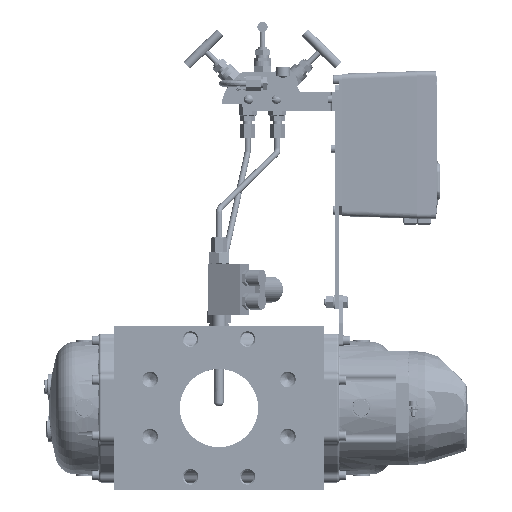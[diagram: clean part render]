
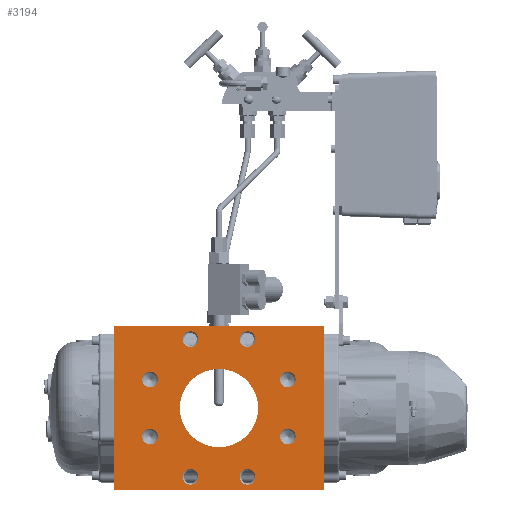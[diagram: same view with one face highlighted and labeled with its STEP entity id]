
A CAD part, front view. The second image highlights one B-rep face of the part: STEP entity #3194.
In plain terms, the highlighted planar face has unit normal (0, -1, 0).
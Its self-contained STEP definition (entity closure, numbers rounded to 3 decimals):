
#3194=ADVANCED_FACE('',(#100538,#100540,#100542,#100544,#100546,#100548,#100550,
#100552,#100554,#100556),#100558,.T.);
#100538=FACE_BOUND('',#100539,.T.);
#100539=EDGE_LOOP('',(#182402,#182403,#182404,#182405));
#100540=FACE_BOUND('',#100541,.T.);
#100541=EDGE_LOOP('',(#182406));
#100542=FACE_BOUND('',#100543,.T.);
#100543=EDGE_LOOP('',(#182407));
#100544=FACE_BOUND('',#100545,.T.);
#100545=EDGE_LOOP('',(#182408));
#100546=FACE_BOUND('',#100547,.T.);
#100547=EDGE_LOOP('',(#182409));
#100548=FACE_BOUND('',#100549,.T.);
#100549=EDGE_LOOP('',(#182410));
#100550=FACE_BOUND('',#100551,.T.);
#100551=EDGE_LOOP('',(#182411));
#100552=FACE_BOUND('',#100553,.T.);
#100553=EDGE_LOOP('',(#182412));
#100554=FACE_BOUND('',#100555,.T.);
#100555=EDGE_LOOP('',(#182413));
#100556=FACE_BOUND('',#100557,.T.);
#100557=EDGE_LOOP('',(#182414));
#100558=PLANE('',#100559);
#100559=AXIS2_PLACEMENT_3D('',#100560,#100561,#100562);
#100560=CARTESIAN_POINT('',(-112.75,-85.5,88.));
#100561=DIRECTION('',(0.,-1.,0.));
#100562=DIRECTION('',(0.,0.,-1.));
#182402=ORIENTED_EDGE('',*,*,#250959,.T.);
#182403=ORIENTED_EDGE('',*,*,#250960,.T.);
#182404=ORIENTED_EDGE('',*,*,#250740,.T.);
#182405=ORIENTED_EDGE('',*,*,#250958,.F.);
#182406=ORIENTED_EDGE('',*,*,#250961,.T.);
#182407=ORIENTED_EDGE('',*,*,#250962,.T.);
#182408=ORIENTED_EDGE('',*,*,#250963,.T.);
#182409=ORIENTED_EDGE('',*,*,#250964,.T.);
#182410=ORIENTED_EDGE('',*,*,#250965,.T.);
#182411=ORIENTED_EDGE('',*,*,#250966,.T.);
#182412=ORIENTED_EDGE('',*,*,#250967,.T.);
#182413=ORIENTED_EDGE('',*,*,#250968,.T.);
#182414=ORIENTED_EDGE('',*,*,#250969,.T.);
#250740=EDGE_CURVE('',#281499,#281497,#281500,.T.);
#250958=EDGE_CURVE('',#281870,#281497,#281872,.T.);
#250959=EDGE_CURVE('',#281870,#281873,#281874,.T.);
#250960=EDGE_CURVE('',#281873,#281499,#281875,.T.);
#250961=EDGE_CURVE('',#281876,#281876,#281877,.T.);
#250962=EDGE_CURVE('',#281878,#281878,#281879,.T.);
#250963=EDGE_CURVE('',#281880,#281880,#281881,.T.);
#250964=EDGE_CURVE('',#281882,#281882,#281883,.T.);
#250965=EDGE_CURVE('',#281884,#281884,#281885,.T.);
#250966=EDGE_CURVE('',#281886,#281886,#281887,.T.);
#250967=EDGE_CURVE('',#281888,#281888,#281889,.T.);
#250968=EDGE_CURVE('',#281890,#281890,#281891,.T.);
#250969=EDGE_CURVE('',#281892,#281892,#281893,.T.);
#281497=VERTEX_POINT('',#334403);
#281499=VERTEX_POINT('',#334407);
#281500=LINE('',#334408,#334409);
#281870=VERTEX_POINT('',#337343);
#281872=LINE('',#337347,#337348);
#281873=VERTEX_POINT('',#337350);
#281874=LINE('',#337351,#337352);
#281875=LINE('',#337354,#337355);
#281876=VERTEX_POINT('',#337357);
#281877=CIRCLE('',#337358,8.417);
#281878=VERTEX_POINT('',#337362);
#281879=CIRCLE('',#337363,8.417);
#281880=VERTEX_POINT('',#337367);
#281881=CIRCLE('',#337368,8.417);
#281882=VERTEX_POINT('',#337372);
#281883=CIRCLE('',#337373,8.417);
#281884=VERTEX_POINT('',#337377);
#281885=CIRCLE('',#337378,8.417);
#281886=VERTEX_POINT('',#337382);
#281887=CIRCLE('',#337383,8.417);
#281888=VERTEX_POINT('',#337387);
#281889=CIRCLE('',#337388,8.417);
#281890=VERTEX_POINT('',#337392);
#281891=CIRCLE('',#337393,42.);
#281892=VERTEX_POINT('',#337397);
#281893=CIRCLE('',#337398,8.417);
#334403=CARTESIAN_POINT('',(112.75,-85.5,88.));
#334407=CARTESIAN_POINT('',(112.75,-85.5,-88.));
#334408=CARTESIAN_POINT('',(112.75,-85.5,-88.));
#334409=VECTOR('',#334410,1.);
#334410=DIRECTION('',(0.,0.,1.));
#337343=CARTESIAN_POINT('',(-112.75,-85.5,88.));
#337347=CARTESIAN_POINT('',(-112.75,-85.5,88.));
#337348=VECTOR('',#337349,1.);
#337349=DIRECTION('',(1.,0.,0.));
#337350=CARTESIAN_POINT('',(-112.75,-85.5,-88.));
#337351=CARTESIAN_POINT('',(-112.75,-85.5,88.));
#337352=VECTOR('',#337353,1.);
#337353=DIRECTION('',(0.,0.,-1.));
#337354=CARTESIAN_POINT('',(-112.75,-85.5,-88.));
#337355=VECTOR('',#337356,1.);
#337356=DIRECTION('',(1.,0.,0.));
#337357=CARTESIAN_POINT('',(82.328,-85.5,30.615));
#337358=AXIS2_PLACEMENT_3D('',#337359,#337360,#337361);
#337359=CARTESIAN_POINT('',(73.91,-85.5,30.615));
#337360=DIRECTION('',(0.,1.,0.));
#337361=DIRECTION('',(1.,0.,0.));
#337362=CARTESIAN_POINT('',(82.328,-85.5,-30.615));
#337363=AXIS2_PLACEMENT_3D('',#337364,#337365,#337366);
#337364=CARTESIAN_POINT('',(73.91,-85.5,-30.615));
#337365=DIRECTION('',(0.,1.,0.));
#337366=DIRECTION('',(1.,0.,0.));
#337367=CARTESIAN_POINT('',(-22.197,-85.5,-73.91));
#337368=AXIS2_PLACEMENT_3D('',#337369,#337370,#337371);
#337369=CARTESIAN_POINT('',(-30.615,-85.5,-73.91));
#337370=DIRECTION('',(0.,1.,0.));
#337371=DIRECTION('',(1.,0.,0.));
#337372=CARTESIAN_POINT('',(39.032,-85.5,73.91));
#337373=AXIS2_PLACEMENT_3D('',#337374,#337375,#337376);
#337374=CARTESIAN_POINT('',(30.615,-85.5,73.91));
#337375=DIRECTION('',(0.,1.,0.));
#337376=DIRECTION('',(1.,0.,0.));
#337377=CARTESIAN_POINT('',(-22.197,-85.5,73.91));
#337378=AXIS2_PLACEMENT_3D('',#337379,#337380,#337381);
#337379=CARTESIAN_POINT('',(-30.615,-85.5,73.91));
#337380=DIRECTION('',(0.,1.,0.));
#337381=DIRECTION('',(1.,0.,0.));
#337382=CARTESIAN_POINT('',(-65.493,-85.5,-30.615));
#337383=AXIS2_PLACEMENT_3D('',#337384,#337385,#337386);
#337384=CARTESIAN_POINT('',(-73.91,-85.5,-30.615));
#337385=DIRECTION('',(0.,1.,0.));
#337386=DIRECTION('',(1.,0.,0.));
#337387=CARTESIAN_POINT('',(39.032,-85.5,-73.91));
#337388=AXIS2_PLACEMENT_3D('',#337389,#337390,#337391);
#337389=CARTESIAN_POINT('',(30.615,-85.5,-73.91));
#337390=DIRECTION('',(0.,1.,0.));
#337391=DIRECTION('',(1.,0.,0.));
#337392=CARTESIAN_POINT('',(-42.,-85.5,0.));
#337393=AXIS2_PLACEMENT_3D('',#337394,#337395,#337396);
#337394=CARTESIAN_POINT('',(0.,-85.5,0.));
#337395=DIRECTION('',(0.,1.,0.));
#337396=DIRECTION('',(-1.,0.,0.));
#337397=CARTESIAN_POINT('',(-65.493,-85.5,30.615));
#337398=AXIS2_PLACEMENT_3D('',#337399,#337400,#337401);
#337399=CARTESIAN_POINT('',(-73.91,-85.5,30.615));
#337400=DIRECTION('',(0.,1.,0.));
#337401=DIRECTION('',(1.,0.,0.));
